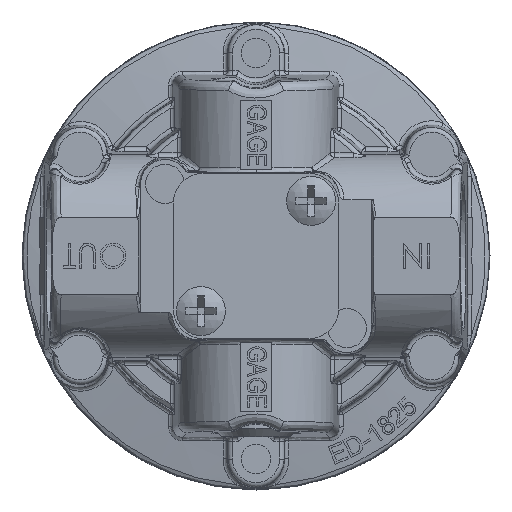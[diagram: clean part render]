
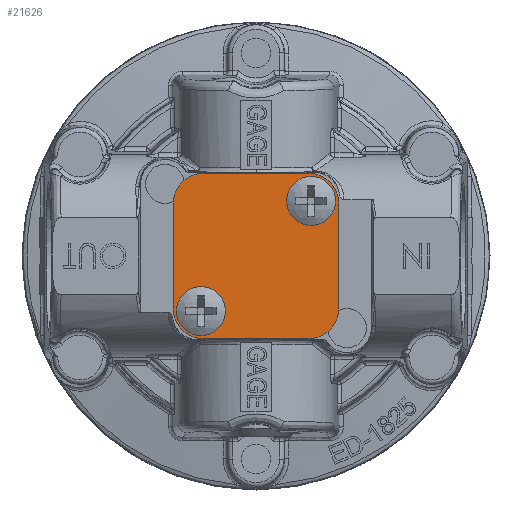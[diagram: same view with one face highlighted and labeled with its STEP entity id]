
A CAD part, front view. The second image highlights one B-rep face of the part: STEP entity #21626.
In plain terms, the highlighted planar face has unit normal (0, -1, 0).
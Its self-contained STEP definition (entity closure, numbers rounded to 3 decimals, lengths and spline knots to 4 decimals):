
#441=FACE_BOUND('',#6467,.T.);
#442=FACE_BOUND('',#6468,.T.);
#767=PLANE('',#23121);
#2646=LINE('',#76094,#4259);
#2651=LINE('',#76109,#4264);
#2652=LINE('',#76112,#4265);
#2653=LINE('',#76116,#4266);
#4259=VECTOR('',#27396,39.3701);
#4264=VECTOR('',#27409,39.3701);
#4265=VECTOR('',#27412,39.3701);
#4266=VECTOR('',#27415,39.3701);
#5329=FACE_OUTER_BOUND('',#6466,.T.);
#6466=EDGE_LOOP('',(#20271,#20272,#20273,#20274,#20275,#20276,#20277,#20278));
#6467=EDGE_LOOP('',(#20279));
#6468=EDGE_LOOP('',(#20280));
#8448=CIRCLE('',#23120,0.19);
#8449=CIRCLE('',#23122,0.19);
#8450=CIRCLE('',#23123,0.19);
#8451=CIRCLE('',#23124,0.19);
#8452=CIRCLE('',#23125,0.1);
#8453=CIRCLE('',#23126,0.1);
#11135=VERTEX_POINT('',#76092);
#11136=VERTEX_POINT('',#76093);
#11140=VERTEX_POINT('',#76103);
#11141=VERTEX_POINT('',#76107);
#11142=VERTEX_POINT('',#76108);
#11143=VERTEX_POINT('',#76110);
#11144=VERTEX_POINT('',#76113);
#11145=VERTEX_POINT('',#76115);
#11146=VERTEX_POINT('',#76118);
#11147=VERTEX_POINT('',#76120);
#14725=EDGE_CURVE('',#11135,#11136,#2646,.T.);
#14730=EDGE_CURVE('',#11140,#11136,#8448,.T.);
#14732=EDGE_CURVE('',#11141,#11142,#2651,.T.);
#14733=EDGE_CURVE('',#11141,#11143,#8449,.T.);
#14734=EDGE_CURVE('',#11140,#11143,#2652,.T.);
#14735=EDGE_CURVE('',#11135,#11144,#8450,.T.);
#14736=EDGE_CURVE('',#11145,#11144,#2653,.T.);
#14737=EDGE_CURVE('',#11145,#11142,#8451,.T.);
#14738=EDGE_CURVE('',#11146,#11146,#8452,.T.);
#14739=EDGE_CURVE('',#11147,#11147,#8453,.T.);
#20271=ORIENTED_EDGE('',*,*,#14732,.F.);
#20272=ORIENTED_EDGE('',*,*,#14733,.T.);
#20273=ORIENTED_EDGE('',*,*,#14734,.F.);
#20274=ORIENTED_EDGE('',*,*,#14730,.T.);
#20275=ORIENTED_EDGE('',*,*,#14725,.F.);
#20276=ORIENTED_EDGE('',*,*,#14735,.T.);
#20277=ORIENTED_EDGE('',*,*,#14736,.F.);
#20278=ORIENTED_EDGE('',*,*,#14737,.T.);
#20279=ORIENTED_EDGE('',*,*,#14738,.T.);
#20280=ORIENTED_EDGE('',*,*,#14739,.T.);
#21626=ADVANCED_FACE('',(#5329,#441,#442),#767,.F.);
#23120=AXIS2_PLACEMENT_3D('',#76104,#27404,#27405);
#23121=AXIS2_PLACEMENT_3D('',#76106,#27407,#27408);
#23122=AXIS2_PLACEMENT_3D('',#76111,#27410,#27411);
#23123=AXIS2_PLACEMENT_3D('',#76114,#27413,#27414);
#23124=AXIS2_PLACEMENT_3D('',#76117,#27416,#27417);
#23125=AXIS2_PLACEMENT_3D('',#76119,#27418,#27419);
#23126=AXIS2_PLACEMENT_3D('',#76121,#27420,#27421);
#27396=DIRECTION('',(0.,0.,-1.));
#27404=DIRECTION('center_axis',(0.,-1.,0.));
#27405=DIRECTION('ref_axis',(0.,0.,
1.));
#27407=DIRECTION('center_axis',(0.,1.,0.));
#27408=DIRECTION('ref_axis',(0.,0.,
1.));
#27409=DIRECTION('',(0.,0.,1.));
#27410=DIRECTION('center_axis',(0.,-1.,0.));
#27411=DIRECTION('ref_axis',(0.,0.,
1.));
#27412=DIRECTION('',(-1.,0.,0.));
#27413=DIRECTION('center_axis',(0.,-1.,0.));
#27414=DIRECTION('ref_axis',(0.,0.,
1.));
#27415=DIRECTION('',(1.,0.,0.));
#27416=DIRECTION('center_axis',(0.,-1.,0.));
#27417=DIRECTION('ref_axis',(0.,0.,
1.));
#27418=DIRECTION('center_axis',(0.,1.,0.));
#27419=DIRECTION('ref_axis',(0.,0.,
1.));
#27420=DIRECTION('center_axis',(0.,1.,0.));
#27421=DIRECTION('ref_axis',(0.,0.,
1.));
#76092=CARTESIAN_POINT('',(0.53,-1.6,0.34));
#76093=CARTESIAN_POINT('',(0.53,-1.6,-0.34));
#76094=CARTESIAN_POINT('',(0.53,-1.6,-0.53));
#76103=CARTESIAN_POINT('',(0.34,-1.6,-0.53));
#76104=CARTESIAN_POINT('Origin',(0.34,-1.6,-0.34));
#76106=CARTESIAN_POINT('Origin',(-0.53,-1.6,0.53));
#76107=CARTESIAN_POINT('',(-0.53,-1.6,-0.34));
#76108=CARTESIAN_POINT('',(-0.53,-1.6,0.34));
#76109=CARTESIAN_POINT('',(-0.53,-1.6,-0.53));
#76110=CARTESIAN_POINT('',(-0.34,-1.6,-0.53));
#76111=CARTESIAN_POINT('Origin',(-0.34,-1.6,-0.34));
#76112=CARTESIAN_POINT('',(-0.53,-1.6,-0.53));
#76113=CARTESIAN_POINT('',(0.34,-1.6,0.53));
#76114=CARTESIAN_POINT('Origin',(0.34,-1.6,0.34));
#76115=CARTESIAN_POINT('',(-0.34,-1.6,0.53));
#76116=CARTESIAN_POINT('',(-0.53,-1.6,0.53));
#76117=CARTESIAN_POINT('Origin',(-0.34,-1.6,0.34));
#76118=CARTESIAN_POINT('',(-0.3536,-1.6,-0.4536));
#76119=CARTESIAN_POINT('Origin',(-0.3536,-1.6,-0.3536));
#76120=CARTESIAN_POINT('',(0.3536,-1.6,0.2536));
#76121=CARTESIAN_POINT('Origin',(0.3536,-1.6,0.3536));
